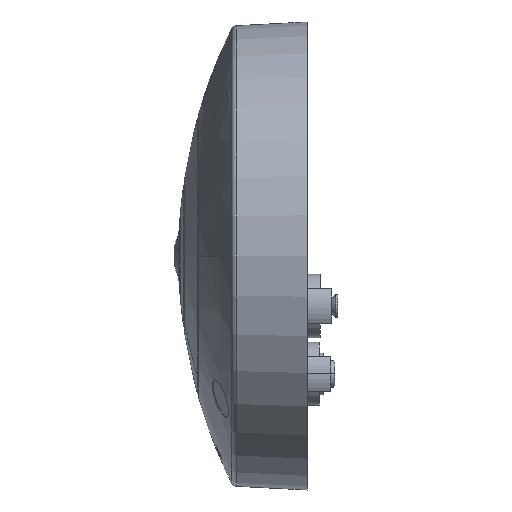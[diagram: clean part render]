
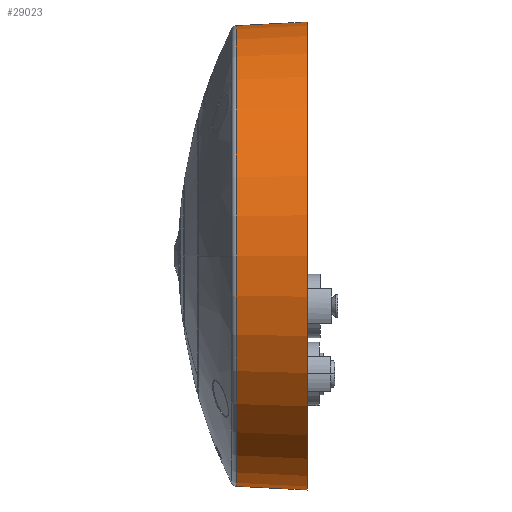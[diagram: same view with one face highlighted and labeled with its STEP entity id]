
A CAD part, left-side view. The second image highlights one B-rep face of the part: STEP entity #29023.
In plain terms, the highlighted conical face has half-angle 3 degrees and reference radius 80.641 mm.
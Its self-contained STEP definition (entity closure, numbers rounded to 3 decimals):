
#371 = DIRECTION ( 'NONE',  ( 0., 0., 1. ) ) ;
#1280 = AXIS2_PLACEMENT_3D ( 'NONE', #26557, #2703, #28402 ) ;
#2703 = DIRECTION ( 'NONE',  ( 0., 1., 0. ) ) ;
#2728 = VERTEX_POINT ( 'NONE', #3991 ) ;
#3250 = EDGE_CURVE ( 'NONE', #28003, #18822, #9656, .T. ) ;
#3709 = AXIS2_PLACEMENT_3D ( 'NONE', #28219, #25486, #371 ) ;
#3878 = ORIENTED_EDGE ( 'NONE', *, *, #16365, .T. ) ;
#3991 = CARTESIAN_POINT ( 'NONE',  ( 0., 0., -82. ) ) ;
#4369 = EDGE_LOOP ( 'NONE', ( #27646, #10161, #18990, #3878 ) ) ;
#4989 = CONICAL_SURFACE ( 'NONE', #23727, 80.641, 0.052 ) ;
#7399 = DIRECTION ( 'NONE',  ( 0., -0.999, -0.052 ) ) ;
#7420 = CARTESIAN_POINT ( 'NONE',  ( 0., 25.925, 80.641 ) ) ;
#7579 = CARTESIAN_POINT ( 'NONE',  ( 0., 24.759, -80.702 ) ) ;
#9631 = LINE ( 'NONE', #25468, #27976 ) ;
#9656 = LINE ( 'NONE', #7420, #21549 ) ;
#10161 = ORIENTED_EDGE ( 'NONE', *, *, #18370, .T. ) ;
#12710 = DIRECTION ( 'NONE',  ( 0., 0., -1. ) ) ;
#13767 = DIRECTION ( 'NONE',  ( 0., -0.999, 0.052 ) ) ;
#16365 = EDGE_CURVE ( 'NONE', #2728, #18822, #20969, .T. ) ;
#16517 = CARTESIAN_POINT ( 'NONE',  ( 0., 0., 82. ) ) ;
#18370 = EDGE_CURVE ( 'NONE', #28003, #27622, #24379, .T. ) ;
#18822 = VERTEX_POINT ( 'NONE', #16517 ) ;
#18990 = ORIENTED_EDGE ( 'NONE', *, *, #22704, .T. ) ;
#20832 = CARTESIAN_POINT ( 'NONE',  ( 0., 24.759, 80.702 ) ) ;
#20969 = CIRCLE ( 'NONE', #1280, 82. ) ;
#21549 = VECTOR ( 'NONE', #13767, 1000. ) ;
#22704 = EDGE_CURVE ( 'NONE', #27622, #2728, #9631, .T. ) ;
#23727 = AXIS2_PLACEMENT_3D ( 'NONE', #28851, #24180, #12710 ) ;
#24180 = DIRECTION ( 'NONE',  ( 0., -1., 0. ) ) ;
#24379 = CIRCLE ( 'NONE', #3709, 80.702 ) ;
#25468 = CARTESIAN_POINT ( 'NONE',  ( 0., 25.925, -80.641 ) ) ;
#25486 = DIRECTION ( 'NONE',  ( 0., -1., 0. ) ) ;
#26557 = CARTESIAN_POINT ( 'NONE',  ( 0., 0., 0. ) ) ;
#27622 = VERTEX_POINT ( 'NONE', #7579 ) ;
#27646 = ORIENTED_EDGE ( 'NONE', *, *, #3250, .F. ) ;
#27976 = VECTOR ( 'NONE', #7399, 1000. ) ;
#28003 = VERTEX_POINT ( 'NONE', #20832 ) ;
#28219 = CARTESIAN_POINT ( 'NONE',  ( 0., 24.759, 0. ) ) ;
#28402 = DIRECTION ( 'NONE',  ( 0., 0., 1. ) ) ;
#28577 = FACE_OUTER_BOUND ( 'NONE', #4369, .T. ) ;
#28851 = CARTESIAN_POINT ( 'NONE',  ( 0., 25.925, 0. ) ) ;
#29023 = ADVANCED_FACE ( 'NONE', ( #28577 ), #4989, .T. ) ;
